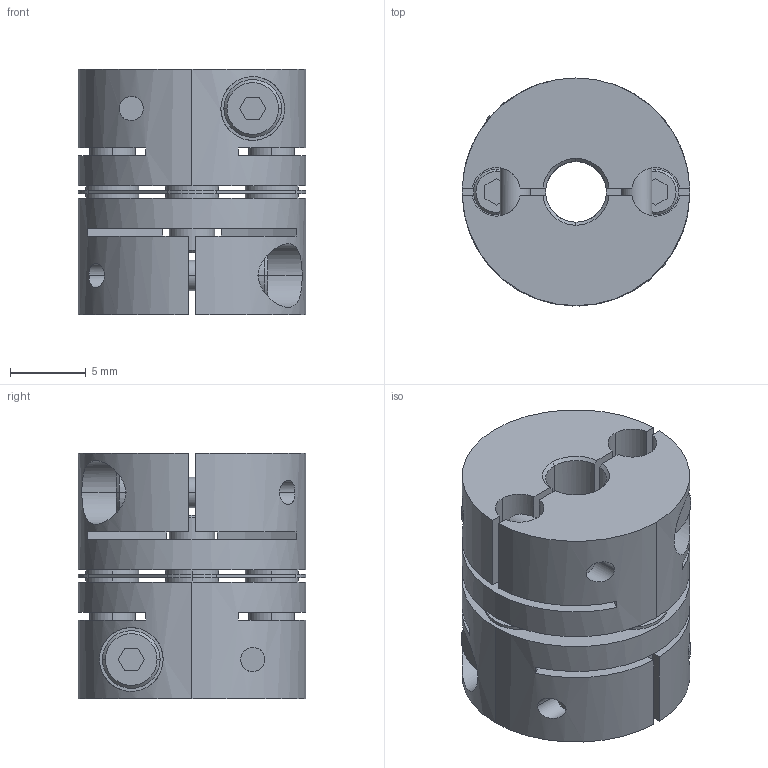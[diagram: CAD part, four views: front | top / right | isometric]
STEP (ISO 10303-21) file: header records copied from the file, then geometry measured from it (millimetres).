
FILE_DESCRIPTION((''),'2;1');
FILE_NAME('LAS-15C-4×4.5.stp','2016-04-21T12:28:20',(''),(''),'AutoCAD STEP 2000i','AutoCAD 2000i',', , ');
FILE_SCHEMA(('CONFIG_CONTROL_DESIGN'));
Length unit declared in the file: millimetre
Products named in the file (5): LAS-15C-3×3; 忣兜1; LA-1502-D03-1; LA-1502-D03; LAS15-ITA
Assembly tree (4 placements, depth 2):
  LAS-15C-3×3
    忣兜1
    LA-1502-D03-1
    LA-1502-D03
    LAS15-ITA
Bounding box: 15 x 15 x 16.2 mm (x, y, z)
Volume: 2191.4 mm3; surface area: 2700.7 mm2
Topology: 1 solids, 1 shells, 236 faces, 624 edges, 408 vertices
Faces by surface type: plane 112, cylinder 96, cone 28
Entity records: 8155 total; most frequent: CARTESIAN_POINT 1961, DIRECTION 1302, ORIENTED_EDGE 1248, EDGE_CURVE 624, AXIS2_PLACEMENT_3D 477, VERTEX_POINT 408, VECTOR 348, LINE 348
